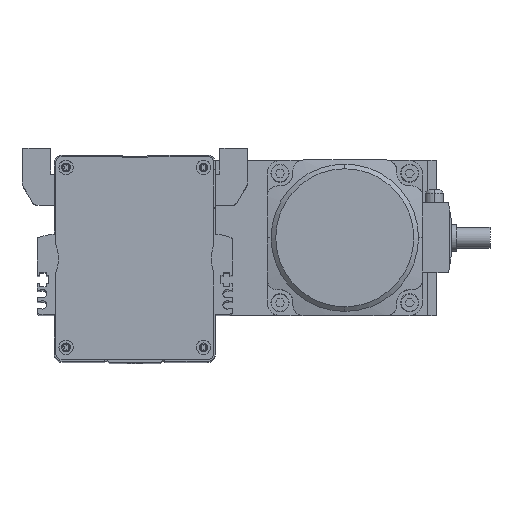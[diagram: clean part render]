
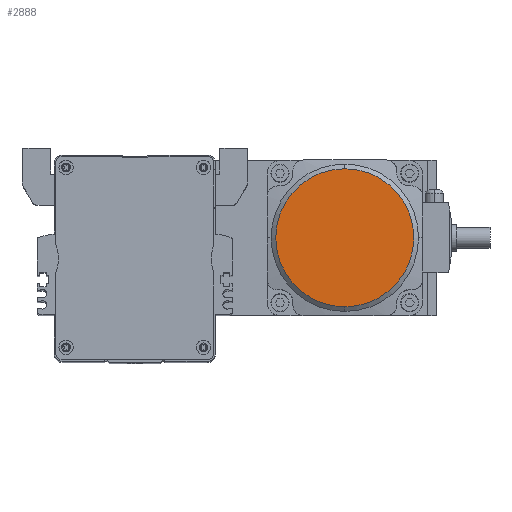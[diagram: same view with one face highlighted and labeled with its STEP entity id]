
A CAD part, top view. The second image highlights one B-rep face of the part: STEP entity #2888.
In plain terms, the highlighted planar face has unit normal (0, 0, 1).
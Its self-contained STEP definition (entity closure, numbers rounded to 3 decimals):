
#2640 = EDGE_LOOP ( 'NONE', ( #2703, #2913 ) ) ;
#2703 = ORIENTED_EDGE ( 'NONE', *, *, #31833, .F. ) ;
#2888 = ADVANCED_FACE ( 'NONE', ( #33582 ), #33567, .F. ) ;
#2913 = ORIENTED_EDGE ( 'NONE', *, *, #16355, .F. ) ;
#8327 = CIRCLE ( 'NONE', #8373, 26.616 ) ;
#8370 = DIRECTION ( 'NONE',  ( 0., -1., 0. ) ) ;
#8371 = DIRECTION ( 'NONE',  ( 0., 0., -1. ) ) ;
#8372 = CARTESIAN_POINT ( 'NONE',  ( 268.19, -4.031, 64. ) ) ;
#8373 = AXIS2_PLACEMENT_3D ( 'NONE', #8372, #8371, #8370 ) ;
#16355 = EDGE_CURVE ( 'NONE', #31848, #31896, #8327, .T. ) ;
#29532 = DIRECTION ( 'NONE',  ( 0., -1., 0. ) ) ;
#29533 = DIRECTION ( 'NONE',  ( 0., 0., -1. ) ) ;
#29536 = CARTESIAN_POINT ( 'NONE',  ( 268.19, -4.031, 64. ) ) ;
#29549 = CIRCLE ( 'NONE', #29558, 26.616 ) ;
#29558 = AXIS2_PLACEMENT_3D ( 'NONE', #29536, #29533, #29532 ) ;
#29575 = CARTESIAN_POINT ( 'NONE',  ( 268.19, 22.585, 64. ) ) ;
#29716 = CARTESIAN_POINT ( 'NONE',  ( 268.19, -30.647, 64. ) ) ;
#31833 = EDGE_CURVE ( 'NONE', #31896, #31848, #29549, .T. ) ;
#31848 = VERTEX_POINT ( 'NONE', #29575 ) ;
#31896 = VERTEX_POINT ( 'NONE', #29716 ) ;
#33567 = PLANE ( 'NONE',  #33590 ) ;
#33568 = DIRECTION ( 'NONE',  ( 0., 0., -1. ) ) ;
#33569 = CARTESIAN_POINT ( 'NONE',  ( 268.19, -4.031, 64. ) ) ;
#33582 = FACE_OUTER_BOUND ( 'NONE', #2640, .T. ) ;
#33590 = AXIS2_PLACEMENT_3D ( 'NONE', #33569, #33568, #33625 ) ;
#33625 = DIRECTION ( 'NONE',  ( 0., -1., 0. ) ) ;
